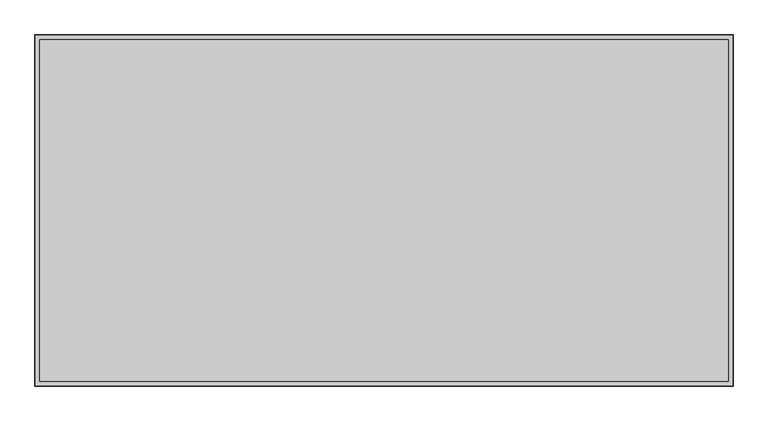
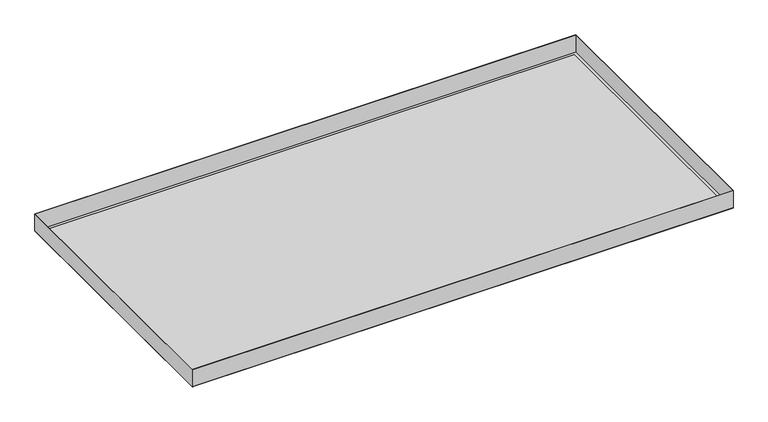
"""IFC4 building model written with IfcOpenShell, lengths in millimetres: proxy geometry, durlum_S7_panel : durlum_S7_panel."""

from ifc_helpers import new_model, si_unit, frame, origin, origin_with_axes, place, context, project, spatial, polyline, outline, extrude, source, transform, mapped, element, save


def generic_models_c447fded(model_context):
    return source(origin(), model_context, "Body", "SweptSolid", [
        extrude(outline(polyline([(596.0, 299.75), (596.0, -299.75), (-596.0, -299.75), (-596.0, 299.75), (596.0, 299.75)]), holes=[polyline([(595.4, 299.15), (-595.4, 299.15), (-595.4, -299.15), (595.4, -299.15), (595.4, 299.15)])]), frame((0.0, 0.0, 0.6), z_axis=(0.0, 0.0, 1.0), x_axis=(1.0, 0.0, 0.0)), (0.0, 0.0, 1.0), 39.4),
        extrude(outline(polyline([(588.0, 291.75), (588.0, -291.75), (-588.0, -291.75), (-588.0, 291.75), (588.0, 291.75)])), frame((0.0, 0.0, 0.6), z_axis=(0.0, 0.0, 1.0), x_axis=(1.0, 0.0, 0.0)), (0.0, 0.0, 1.0), 0.6),
        extrude(outline(polyline([(596.0, 299.75), (596.0, -299.75), (-596.0, -299.75), (-596.0, 299.75), (596.0, 299.75)]), holes=[polyline([(588.0, 291.75), (-588.0, 291.75), (-588.0, -291.75), (588.0, -291.75), (588.0, 291.75)])]), origin_with_axes(), (0.0, 0.0, 1.0), 0.6),
        extrude(outline(polyline([(588.0, 291.75), (588.0, -291.75), (-588.0, -291.75), (-588.0, 291.75), (588.0, 291.75)])), origin_with_axes(), (0.0, 0.0, 1.0), 0.6),
    ])


if __name__ == "__main__":
    model = new_model("IFC4")
    model_context = context("Model", 3, world=origin())
    ifc_project = project(units=[si_unit("LENGTHUNIT", "METRE", prefix="MILLI")], contexts=[model_context])
    site = spatial("IfcSite", under=ifc_project)
    building = spatial("IfcBuilding", under=site)
    placement = place(None, origin())
    generic_models_shape = generic_models_c447fded(model_context)
    element("IfcBuildingElementProxy", 1, Name="durlum_S7_panel : durlum_S7_panel", ObjectType="durlum_S7_panel : durlum_S7_panel", at=placement, inside=building, context=model_context, shape_type="MappedRepresentation", body=[
        mapped(generic_models_shape, transform((0.0, 0.0, 0.0), x_axis=(1.0, 0.0, 0.0), y_axis=(0.0, 1.0, 0.0), z_axis=(0.0, 0.0, 1.0))),
    ])
    save(model, "model.ifc")
